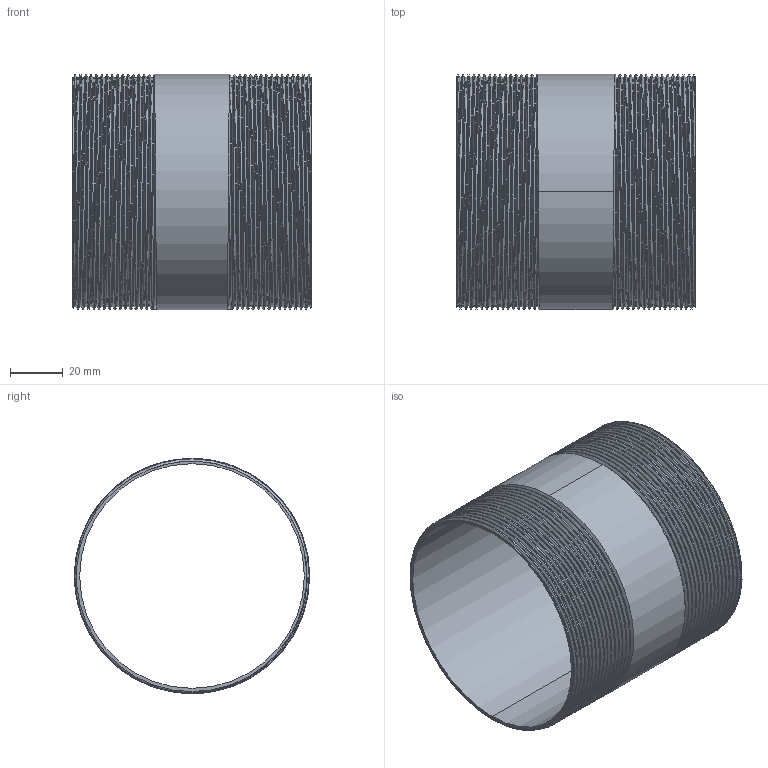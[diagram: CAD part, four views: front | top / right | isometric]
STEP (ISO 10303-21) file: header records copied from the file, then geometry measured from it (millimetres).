
FILE_DESCRIPTION (( 'STEP AP203' ), '1' );
FILE_NAME ('3D_R210_3x90_17148665.STEP', '2024-08-16T10:24:26', ( '' ), ( '' ), 'SwSTEP 2.0', 'SolidWorks 2024', '' );
FILE_SCHEMA (( 'CONFIG_CONTROL_DESIGN' ));
Length unit declared in the file: millimetre
Products named in the file (1): 3D_R210_3x90_17148665
Bounding box: 90 x 88.88 x 88.9 mm (x, y, z)
Volume: 38515.4 mm3; surface area: 59334.7 mm2
Topology: 1 solids, 1 shells, 80 faces, 228 edges, 150 vertices
Faces by surface type: cone 66, bspline 6, cylinder 4, plane 4
Entity records: 16579 total; most frequent: CARTESIAN_POINT 14717, ORIENTED_EDGE 456, DIRECTION 248, EDGE_CURVE 228, VERTEX_POINT 150, B_SPLINE_CURVE_WITH_KNOTS 134, AXIS2_PLACEMENT_3D 87, EDGE_LOOP 82
